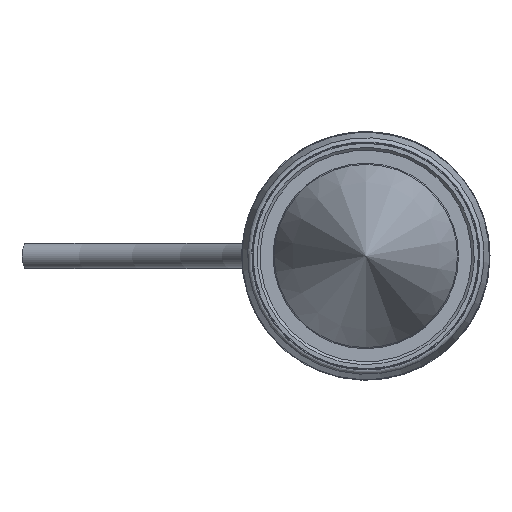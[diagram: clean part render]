
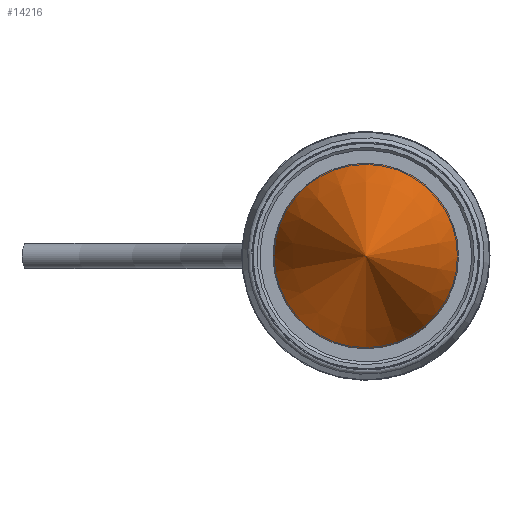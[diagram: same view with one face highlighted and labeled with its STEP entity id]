
A CAD part, front view. The second image highlights one B-rep face of the part: STEP entity #14216.
In plain terms, the highlighted conical face has half-angle 19.779 degrees and reference radius 10.076 mm.
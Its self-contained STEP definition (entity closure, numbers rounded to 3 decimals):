
#1619 = CARTESIAN_POINT ( 'NONE',  ( 0., -23.504, 0. ) ) ;
#1916 = EDGE_LOOP ( 'NONE', ( #16547 ) ) ;
#2203 = CONICAL_SURFACE ( 'NONE', #7374, 10.076, 0.345 ) ;
#3596 = EDGE_CURVE ( 'NONE', #18827, #18827, #17092, .T. ) ;
#3796 = AXIS2_PLACEMENT_3D ( 'NONE', #6419, #12208, #7751 ) ;
#4879 = CARTESIAN_POINT ( 'NONE',  ( -10.076, -23.504, 0. ) ) ;
#6419 = CARTESIAN_POINT ( 'NONE',  ( 0., -23.504, 0. ) ) ;
#7374 = AXIS2_PLACEMENT_3D ( 'NONE', #1619, #10113, #19373 ) ;
#7751 = DIRECTION ( 'NONE',  ( -1., 0., 0. ) ) ;
#9322 = FACE_OUTER_BOUND ( 'NONE', #1916, .T. ) ;
#10113 = DIRECTION ( 'NONE',  ( 0., 1., 0. ) ) ;
#12208 = DIRECTION ( 'NONE',  ( 0., 1., 0. ) ) ;
#14216 = ADVANCED_FACE ( 'NONE', ( #9322 ), #2203, .T. ) ;
#16547 = ORIENTED_EDGE ( 'NONE', *, *, #3596, .F. ) ;
#17092 = CIRCLE ( 'NONE', #3796, 10.076 ) ;
#18827 = VERTEX_POINT ( 'NONE', #4879 ) ;
#19373 = DIRECTION ( 'NONE',  ( -1., 0., 0. ) ) ;
